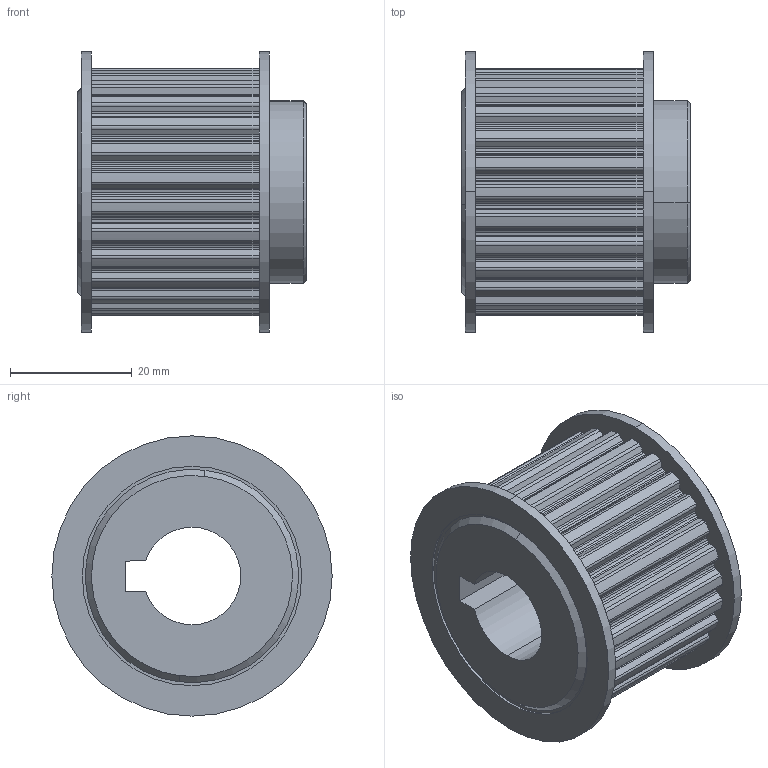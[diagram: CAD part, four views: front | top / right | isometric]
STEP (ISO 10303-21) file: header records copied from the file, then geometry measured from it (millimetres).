
FILE_DESCRIPTION (( 'STEP AP214' ), '1' );
FILE_NAME ('3.2064 Hammashihnapyörä 25T5_26D16K5_0.STEP', '2026-03-03T07:01:08', ( '' ), ( '' ), 'SwSTEP 2.0', 'SolidWorks 2025', '' );
FILE_SCHEMA (( 'AUTOMOTIVE_DESIGN' ));
Length unit declared in the file: millimetre
Products named in the file (1): 3.2064 Hammashihnapyörä 25T5_26D16K5_0
Bounding box: 37.5 x 46 x 46 mm (x, y, z)
Volume: 35599.4 mm3; surface area: 11682.3 mm2
Topology: 1 solids, 1 shells, 484 faces, 1373 edges, 914 vertices
Faces by surface type: plane 214, cylinder 177, bspline 85, cone 8
Entity records: 27294 total; most frequent: CARTESIAN_POINT 15238, ORIENTED_EDGE 2746, DIRECTION 2201, EDGE_CURVE 1373, VERTEX_POINT 914, LINE 805, VECTOR 805, AXIS2_PLACEMENT_3D 698
